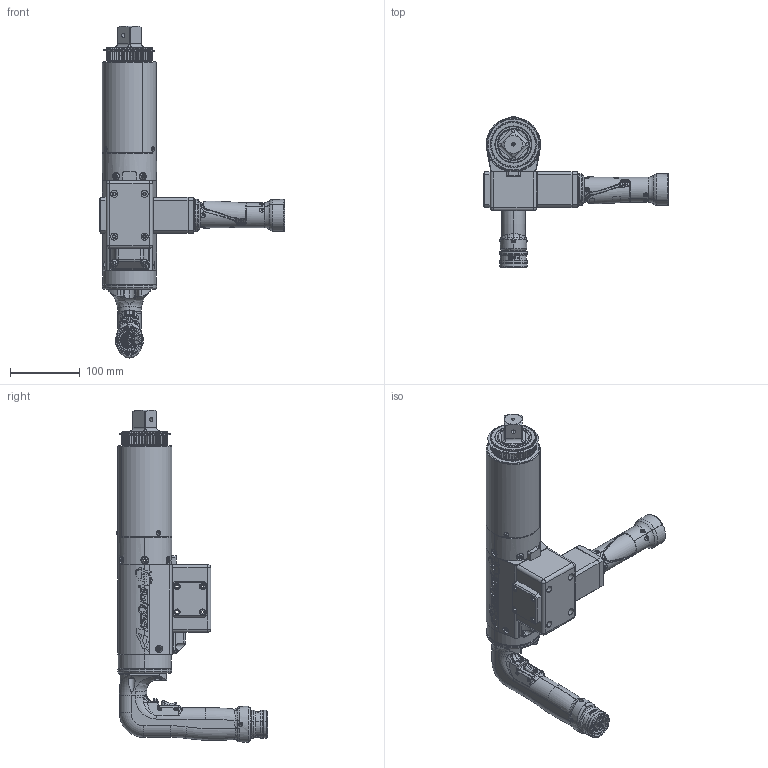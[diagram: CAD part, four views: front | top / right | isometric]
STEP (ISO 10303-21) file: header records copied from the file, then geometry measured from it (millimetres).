
FILE_DESCRIPTION (( 'STEP AP214' ), '1' );
FILE_NAME ('AED4B771800BDLL, AED4B772500BDLL.STEP', '2022-07-25T16:28:46', ( '' ), ( '' ), 'SwSTEP 2.0', 'SolidWorks 2022', '' );
FILE_SCHEMA (( 'AUTOMOTIVE_DESIGN' ));
Length unit declared in the file: inch
Products named in the file (1): AED4B771800BDLL, AED4B772500BDLL
Bounding box: 264.65 x 216.01 x 474.66 mm (x, y, z)
Surface area: 282137.4 mm2 (no closed solid volume)
Topology: 0 solids, 140 shells, 1633 faces, 6555 edges, 4815 vertices
Faces by surface type: cylinder 543, plane 450, bspline 244, torus 197, cone 177, sphere 22
Entity records: 151643 total; most frequent: CARTESIAN_POINT 81031, ORIENTED_EDGE 9757, DIRECTION 9250, EDGE_CURVE 6547, VERTEX_POINT 4815, AXIS2_PLACEMENT_3D 3521, LINE 2208, VECTOR 2208
